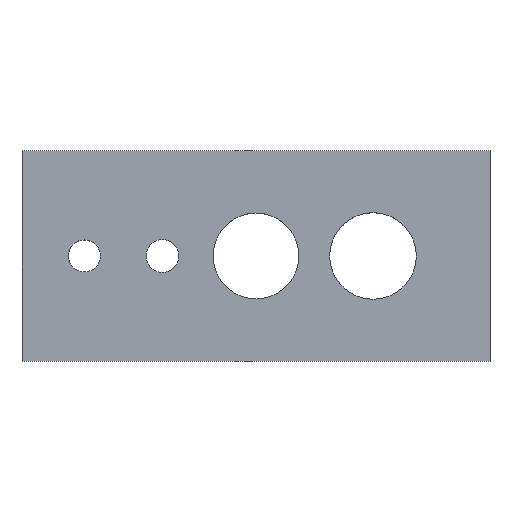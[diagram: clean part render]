
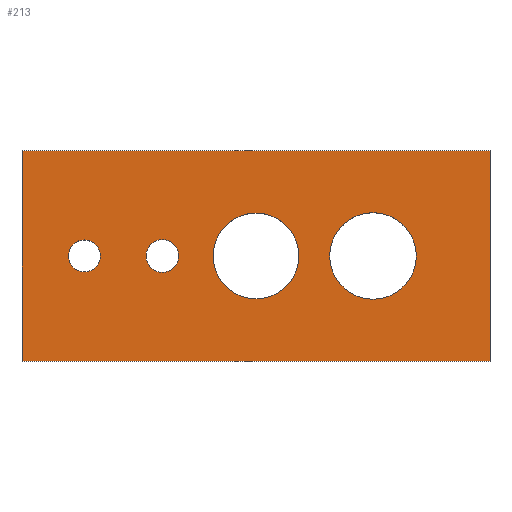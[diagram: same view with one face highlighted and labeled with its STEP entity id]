
A CAD part, top view. The second image highlights one B-rep face of the part: STEP entity #213.
In plain terms, the highlighted planar face has unit normal (0, 0, 1).
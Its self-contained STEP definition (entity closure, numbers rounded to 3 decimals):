
#24 = VERTEX_POINT('',#25);
#25 = CARTESIAN_POINT('',(-60.,-27.,9.));
#32 = PLANE('',#33);
#33 = AXIS2_PLACEMENT_3D('',#34,#35,#36);
#34 = CARTESIAN_POINT('',(-60.,-27.,0.));
#35 = DIRECTION('',(1.,0.,0.));
#36 = DIRECTION('',(0.,0.,1.));
#44 = PLANE('',#45);
#45 = AXIS2_PLACEMENT_3D('',#46,#47,#48);
#46 = CARTESIAN_POINT('',(-60.,-27.,0.));
#47 = DIRECTION('',(0.,1.,0.));
#48 = DIRECTION('',(0.,0.,1.));
#85 = VERTEX_POINT('',#86);
#86 = CARTESIAN_POINT('',(-60.,27.,9.));
#100 = PLANE('',#101);
#101 = AXIS2_PLACEMENT_3D('',#102,#103,#104);
#102 = CARTESIAN_POINT('',(-60.,27.,0.));
#103 = DIRECTION('',(0.,1.,0.));
#104 = DIRECTION('',(0.,0.,1.));
#112 = EDGE_CURVE('',#24,#85,#113,.T.);
#113 = SURFACE_CURVE('',#114,(#118,#125),.PCURVE_S1.);
#114 = LINE('',#115,#116);
#115 = CARTESIAN_POINT('',(-60.,-27.,9.));
#116 = VECTOR('',#117,1.);
#117 = DIRECTION('',(0.,1.,0.));
#118 = PCURVE('',#32,#119);
#119 = DEFINITIONAL_REPRESENTATION('',(#120),#124);
#120 = LINE('',#121,#122);
#121 = CARTESIAN_POINT('',(9.,0.));
#122 = VECTOR('',#123,1.);
#123 = DIRECTION('',(0.,-1.));
#124 = ( GEOMETRIC_REPRESENTATION_CONTEXT(2) 
PARAMETRIC_REPRESENTATION_CONTEXT() REPRESENTATION_CONTEXT('2D SPACE',''
  ) );
#125 = PCURVE('',#126,#131);
#126 = PLANE('',#127);
#127 = AXIS2_PLACEMENT_3D('',#128,#129,#130);
#128 = CARTESIAN_POINT('',(-60.,-27.,9.));
#129 = DIRECTION('',(0.,0.,1.));
#130 = DIRECTION('',(1.,0.,0.));
#131 = DEFINITIONAL_REPRESENTATION('',(#132),#136);
#132 = LINE('',#133,#134);
#133 = CARTESIAN_POINT('',(0.,0.));
#134 = VECTOR('',#135,1.);
#135 = DIRECTION('',(0.,1.));
#136 = ( GEOMETRIC_REPRESENTATION_CONTEXT(2) 
PARAMETRIC_REPRESENTATION_CONTEXT() REPRESENTATION_CONTEXT('2D SPACE',''
  ) );
#165 = EDGE_CURVE('',#24,#166,#168,.T.);
#166 = VERTEX_POINT('',#167);
#167 = CARTESIAN_POINT('',(60.,-27.,9.));
#168 = SURFACE_CURVE('',#169,(#173,#180),.PCURVE_S1.);
#169 = LINE('',#170,#171);
#170 = CARTESIAN_POINT('',(-60.,-27.,9.));
#171 = VECTOR('',#172,1.);
#172 = DIRECTION('',(1.,0.,0.));
#173 = PCURVE('',#44,#174);
#174 = DEFINITIONAL_REPRESENTATION('',(#175),#179);
#175 = LINE('',#176,#177);
#176 = CARTESIAN_POINT('',(9.,0.));
#177 = VECTOR('',#178,1.);
#178 = DIRECTION('',(0.,1.));
#179 = ( GEOMETRIC_REPRESENTATION_CONTEXT(2) 
PARAMETRIC_REPRESENTATION_CONTEXT() REPRESENTATION_CONTEXT('2D SPACE',''
  ) );
#180 = PCURVE('',#126,#181);
#181 = DEFINITIONAL_REPRESENTATION('',(#182),#186);
#182 = LINE('',#183,#184);
#183 = CARTESIAN_POINT('',(0.,0.));
#184 = VECTOR('',#185,1.);
#185 = DIRECTION('',(1.,0.));
#186 = ( GEOMETRIC_REPRESENTATION_CONTEXT(2) 
PARAMETRIC_REPRESENTATION_CONTEXT() REPRESENTATION_CONTEXT('2D SPACE',''
  ) );
#202 = PLANE('',#203);
#203 = AXIS2_PLACEMENT_3D('',#204,#205,#206);
#204 = CARTESIAN_POINT('',(60.,-27.,0.));
#205 = DIRECTION('',(1.,0.,0.));
#206 = DIRECTION('',(0.,0.,1.));
#213 = ADVANCED_FACE('',(#214,#262,#293,#324,#355),#126,.T.);
#214 = FACE_BOUND('',#215,.T.);
#215 = EDGE_LOOP('',(#216,#217,#218,#241));
#216 = ORIENTED_EDGE('',*,*,#112,.F.);
#217 = ORIENTED_EDGE('',*,*,#165,.T.);
#218 = ORIENTED_EDGE('',*,*,#219,.T.);
#219 = EDGE_CURVE('',#166,#220,#222,.T.);
#220 = VERTEX_POINT('',#221);
#221 = CARTESIAN_POINT('',(60.,27.,9.));
#222 = SURFACE_CURVE('',#223,(#227,#234),.PCURVE_S1.);
#223 = LINE('',#224,#225);
#224 = CARTESIAN_POINT('',(60.,-27.,9.));
#225 = VECTOR('',#226,1.);
#226 = DIRECTION('',(0.,1.,0.));
#227 = PCURVE('',#126,#228);
#228 = DEFINITIONAL_REPRESENTATION('',(#229),#233);
#229 = LINE('',#230,#231);
#230 = CARTESIAN_POINT('',(120.,0.));
#231 = VECTOR('',#232,1.);
#232 = DIRECTION('',(0.,1.));
#233 = ( GEOMETRIC_REPRESENTATION_CONTEXT(2) 
PARAMETRIC_REPRESENTATION_CONTEXT() REPRESENTATION_CONTEXT('2D SPACE',''
  ) );
#234 = PCURVE('',#202,#235);
#235 = DEFINITIONAL_REPRESENTATION('',(#236),#240);
#236 = LINE('',#237,#238);
#237 = CARTESIAN_POINT('',(9.,0.));
#238 = VECTOR('',#239,1.);
#239 = DIRECTION('',(0.,-1.));
#240 = ( GEOMETRIC_REPRESENTATION_CONTEXT(2) 
PARAMETRIC_REPRESENTATION_CONTEXT() REPRESENTATION_CONTEXT('2D SPACE',''
  ) );
#241 = ORIENTED_EDGE('',*,*,#242,.F.);
#242 = EDGE_CURVE('',#85,#220,#243,.T.);
#243 = SURFACE_CURVE('',#244,(#248,#255),.PCURVE_S1.);
#244 = LINE('',#245,#246);
#245 = CARTESIAN_POINT('',(-60.,27.,9.));
#246 = VECTOR('',#247,1.);
#247 = DIRECTION('',(1.,0.,0.));
#248 = PCURVE('',#126,#249);
#249 = DEFINITIONAL_REPRESENTATION('',(#250),#254);
#250 = LINE('',#251,#252);
#251 = CARTESIAN_POINT('',(0.,54.));
#252 = VECTOR('',#253,1.);
#253 = DIRECTION('',(1.,0.));
#254 = ( GEOMETRIC_REPRESENTATION_CONTEXT(2) 
PARAMETRIC_REPRESENTATION_CONTEXT() REPRESENTATION_CONTEXT('2D SPACE',''
  ) );
#255 = PCURVE('',#100,#256);
#256 = DEFINITIONAL_REPRESENTATION('',(#257),#261);
#257 = LINE('',#258,#259);
#258 = CARTESIAN_POINT('',(9.,0.));
#259 = VECTOR('',#260,1.);
#260 = DIRECTION('',(0.,1.));
#261 = ( GEOMETRIC_REPRESENTATION_CONTEXT(2) 
PARAMETRIC_REPRESENTATION_CONTEXT() REPRESENTATION_CONTEXT('2D SPACE',''
  ) );
#262 = FACE_BOUND('',#263,.T.);
#263 = EDGE_LOOP('',(#264));
#264 = ORIENTED_EDGE('',*,*,#265,.F.);
#265 = EDGE_CURVE('',#266,#266,#268,.T.);
#266 = VERTEX_POINT('',#267);
#267 = CARTESIAN_POINT('',(-39.9,0.,9.));
#268 = SURFACE_CURVE('',#269,(#274,#281),.PCURVE_S1.);
#269 = CIRCLE('',#270,4.1);
#270 = AXIS2_PLACEMENT_3D('',#271,#272,#273);
#271 = CARTESIAN_POINT('',(-44.,0.,9.));
#272 = DIRECTION('',(0.,0.,1.));
#273 = DIRECTION('',(1.,0.,-0.));
#274 = PCURVE('',#126,#275);
#275 = DEFINITIONAL_REPRESENTATION('',(#276),#280);
#276 = CIRCLE('',#277,4.1);
#277 = AXIS2_PLACEMENT_2D('',#278,#279);
#278 = CARTESIAN_POINT('',(16.,27.));
#279 = DIRECTION('',(1.,0.));
#280 = ( GEOMETRIC_REPRESENTATION_CONTEXT(2) 
PARAMETRIC_REPRESENTATION_CONTEXT() REPRESENTATION_CONTEXT('2D SPACE',''
  ) );
#281 = PCURVE('',#282,#287);
#282 = CYLINDRICAL_SURFACE('',#283,4.1);
#283 = AXIS2_PLACEMENT_3D('',#284,#285,#286);
#284 = CARTESIAN_POINT('',(-44.,0.,-1.));
#285 = DIRECTION('',(0.,0.,1.));
#286 = DIRECTION('',(1.,0.,-0.));
#287 = DEFINITIONAL_REPRESENTATION('',(#288),#292);
#288 = LINE('',#289,#290);
#289 = CARTESIAN_POINT('',(0.,10.));
#290 = VECTOR('',#291,1.);
#291 = DIRECTION('',(1.,0.));
#292 = ( GEOMETRIC_REPRESENTATION_CONTEXT(2) 
PARAMETRIC_REPRESENTATION_CONTEXT() REPRESENTATION_CONTEXT('2D SPACE',''
  ) );
#293 = FACE_BOUND('',#294,.T.);
#294 = EDGE_LOOP('',(#295));
#295 = ORIENTED_EDGE('',*,*,#296,.F.);
#296 = EDGE_CURVE('',#297,#297,#299,.T.);
#297 = VERTEX_POINT('',#298);
#298 = CARTESIAN_POINT('',(-19.8,0.,9.));
#299 = SURFACE_CURVE('',#300,(#305,#312),.PCURVE_S1.);
#300 = CIRCLE('',#301,4.2);
#301 = AXIS2_PLACEMENT_3D('',#302,#303,#304);
#302 = CARTESIAN_POINT('',(-24.,0.,9.));
#303 = DIRECTION('',(0.,0.,1.));
#304 = DIRECTION('',(1.,0.,-0.));
#305 = PCURVE('',#126,#306);
#306 = DEFINITIONAL_REPRESENTATION('',(#307),#311);
#307 = CIRCLE('',#308,4.2);
#308 = AXIS2_PLACEMENT_2D('',#309,#310);
#309 = CARTESIAN_POINT('',(36.,27.));
#310 = DIRECTION('',(1.,0.));
#311 = ( GEOMETRIC_REPRESENTATION_CONTEXT(2) 
PARAMETRIC_REPRESENTATION_CONTEXT() REPRESENTATION_CONTEXT('2D SPACE',''
  ) );
#312 = PCURVE('',#313,#318);
#313 = CYLINDRICAL_SURFACE('',#314,4.2);
#314 = AXIS2_PLACEMENT_3D('',#315,#316,#317);
#315 = CARTESIAN_POINT('',(-24.,0.,-1.));
#316 = DIRECTION('',(0.,0.,1.));
#317 = DIRECTION('',(1.,0.,-0.));
#318 = DEFINITIONAL_REPRESENTATION('',(#319),#323);
#319 = LINE('',#320,#321);
#320 = CARTESIAN_POINT('',(0.,10.));
#321 = VECTOR('',#322,1.);
#322 = DIRECTION('',(1.,0.));
#323 = ( GEOMETRIC_REPRESENTATION_CONTEXT(2) 
PARAMETRIC_REPRESENTATION_CONTEXT() REPRESENTATION_CONTEXT('2D SPACE',''
  ) );
#324 = FACE_BOUND('',#325,.T.);
#325 = EDGE_LOOP('',(#326));
#326 = ORIENTED_EDGE('',*,*,#327,.F.);
#327 = EDGE_CURVE('',#328,#328,#330,.T.);
#328 = VERTEX_POINT('',#329);
#329 = CARTESIAN_POINT('',(11.,0.,9.));
#330 = SURFACE_CURVE('',#331,(#336,#343),.PCURVE_S1.);
#331 = CIRCLE('',#332,11.);
#332 = AXIS2_PLACEMENT_3D('',#333,#334,#335);
#333 = CARTESIAN_POINT('',(0.,0.,9.));
#334 = DIRECTION('',(0.,0.,1.));
#335 = DIRECTION('',(1.,0.,-0.));
#336 = PCURVE('',#126,#337);
#337 = DEFINITIONAL_REPRESENTATION('',(#338),#342);
#338 = CIRCLE('',#339,11.);
#339 = AXIS2_PLACEMENT_2D('',#340,#341);
#340 = CARTESIAN_POINT('',(60.,27.));
#341 = DIRECTION('',(1.,0.));
#342 = ( GEOMETRIC_REPRESENTATION_CONTEXT(2) 
PARAMETRIC_REPRESENTATION_CONTEXT() REPRESENTATION_CONTEXT('2D SPACE',''
  ) );
#343 = PCURVE('',#344,#349);
#344 = CYLINDRICAL_SURFACE('',#345,11.);
#345 = AXIS2_PLACEMENT_3D('',#346,#347,#348);
#346 = CARTESIAN_POINT('',(0.,0.,-1.));
#347 = DIRECTION('',(0.,0.,1.));
#348 = DIRECTION('',(1.,0.,-0.));
#349 = DEFINITIONAL_REPRESENTATION('',(#350),#354);
#350 = LINE('',#351,#352);
#351 = CARTESIAN_POINT('',(0.,10.));
#352 = VECTOR('',#353,1.);
#353 = DIRECTION('',(1.,0.));
#354 = ( GEOMETRIC_REPRESENTATION_CONTEXT(2) 
PARAMETRIC_REPRESENTATION_CONTEXT() REPRESENTATION_CONTEXT('2D SPACE',''
  ) );
#355 = FACE_BOUND('',#356,.T.);
#356 = EDGE_LOOP('',(#357));
#357 = ORIENTED_EDGE('',*,*,#358,.F.);
#358 = EDGE_CURVE('',#359,#359,#361,.T.);
#359 = VERTEX_POINT('',#360);
#360 = CARTESIAN_POINT('',(41.1,0.,9.));
#361 = SURFACE_CURVE('',#362,(#367,#374),.PCURVE_S1.);
#362 = CIRCLE('',#363,11.1);
#363 = AXIS2_PLACEMENT_3D('',#364,#365,#366);
#364 = CARTESIAN_POINT('',(30.,0.,9.));
#365 = DIRECTION('',(0.,0.,1.));
#366 = DIRECTION('',(1.,0.,-0.));
#367 = PCURVE('',#126,#368);
#368 = DEFINITIONAL_REPRESENTATION('',(#369),#373);
#369 = CIRCLE('',#370,11.1);
#370 = AXIS2_PLACEMENT_2D('',#371,#372);
#371 = CARTESIAN_POINT('',(90.,27.));
#372 = DIRECTION('',(1.,0.));
#373 = ( GEOMETRIC_REPRESENTATION_CONTEXT(2) 
PARAMETRIC_REPRESENTATION_CONTEXT() REPRESENTATION_CONTEXT('2D SPACE',''
  ) );
#374 = PCURVE('',#375,#380);
#375 = CYLINDRICAL_SURFACE('',#376,11.1);
#376 = AXIS2_PLACEMENT_3D('',#377,#378,#379);
#377 = CARTESIAN_POINT('',(30.,0.,-1.));
#378 = DIRECTION('',(0.,0.,1.));
#379 = DIRECTION('',(1.,0.,-0.));
#380 = DEFINITIONAL_REPRESENTATION('',(#381),#385);
#381 = LINE('',#382,#383);
#382 = CARTESIAN_POINT('',(0.,10.));
#383 = VECTOR('',#384,1.);
#384 = DIRECTION('',(1.,0.));
#385 = ( GEOMETRIC_REPRESENTATION_CONTEXT(2) 
PARAMETRIC_REPRESENTATION_CONTEXT() REPRESENTATION_CONTEXT('2D SPACE',''
  ) );
